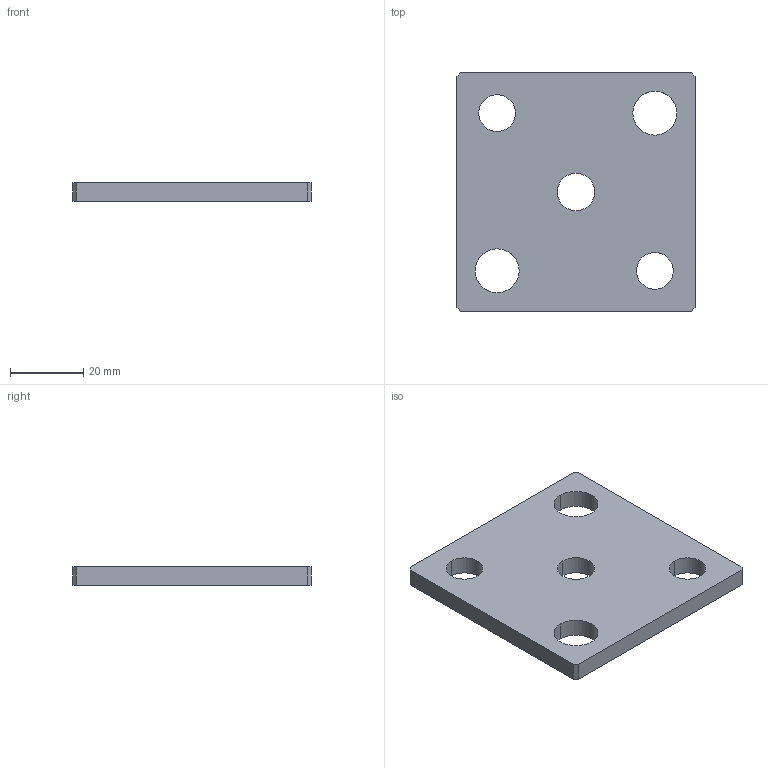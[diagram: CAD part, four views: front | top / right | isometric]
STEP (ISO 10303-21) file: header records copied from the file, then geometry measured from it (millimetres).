
FILE_DESCRIPTION(/* description */ (''),/* implementation_level */ '2;1');
FILE_NAME(/* name */ '3d_mpsp38_04598_r00.stp',/* time_stamp */ '2011-01-10T14:13:29+09:00',/* author */ ('MISUMI'),/* organization */ (''),/* preprocessor_version */ 'ST-DEVELOPER v11',/* originating_system */ 'UGS - NX 5.0',/* authorisation */ '');
FILE_SCHEMA (('CONFIG_CONTROL_DESIGN'));
Length unit declared in the file: millimetre
Products named in the file (1): 3d_mpsp38_04598_r00
Bounding box: 65 x 65 x 5 mm (x, y, z)
Volume: 18790.1 mm3; surface area: 9655.7 mm2
Topology: 1 solids, 1 shells, 20 faces, 54 edges, 36 vertices
Faces by surface type: plane 10, cylinder 10
Entity records: 744 total; most frequent: DIRECTION 116, CARTESIAN_POINT 111, ORIENTED_EDGE 108, EDGE_CURVE 54, AXIS2_PLACEMENT_3D 41, VERTEX_POINT 36, LINE 34, VECTOR 34
